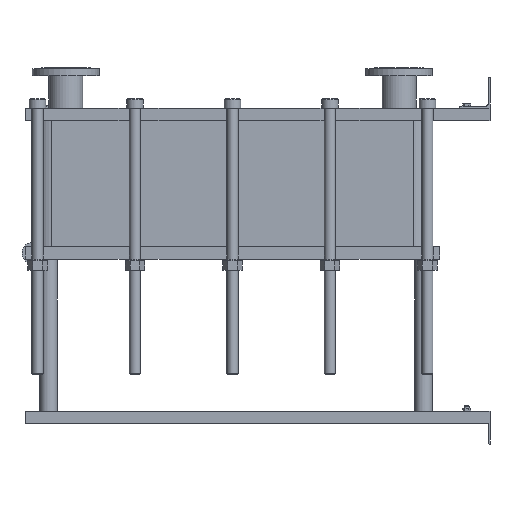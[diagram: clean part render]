
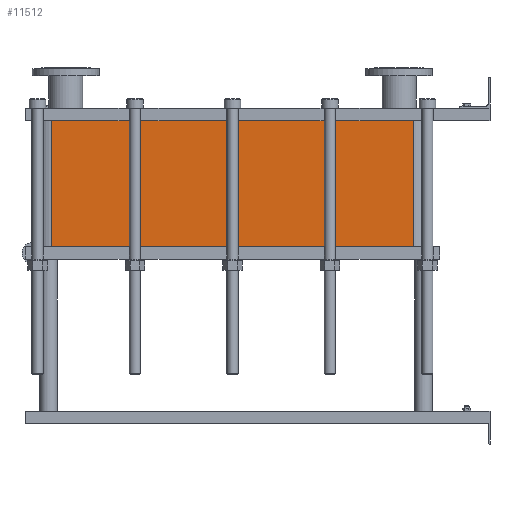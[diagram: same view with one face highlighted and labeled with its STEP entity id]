
A CAD part, left-side view. The second image highlights one B-rep face of the part: STEP entity #11512.
In plain terms, the highlighted planar face has unit normal (-1, 0, 0).
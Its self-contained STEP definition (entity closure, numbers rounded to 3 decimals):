
#1129=LINE('',#23232,#2102);
#1130=LINE('',#23236,#2103);
#1131=LINE('',#23238,#2104);
#1132=LINE('',#23239,#2105);
#2102=VECTOR('',#15887,10.);
#2103=VECTOR('',#15892,10.);
#2104=VECTOR('',#15893,10.);
#2105=VECTOR('',#15894,10.);
#3267=FACE_OUTER_BOUND('',#4093,.T.);
#4093=EDGE_LOOP('',(#10103,#10104,#10105,#10106));
#5642=VERTEX_POINT('',#23229);
#5643=VERTEX_POINT('',#23231);
#5644=VERTEX_POINT('',#23235);
#5645=VERTEX_POINT('',#23237);
#7159=EDGE_CURVE('',#5643,#5642,#1129,.T.);
#7161=EDGE_CURVE('',#5642,#5644,#1130,.T.);
#7162=EDGE_CURVE('',#5645,#5644,#1131,.T.);
#7163=EDGE_CURVE('',#5645,#5643,#1132,.T.);
#10103=ORIENTED_EDGE('',*,*,#7161,.T.);
#10104=ORIENTED_EDGE('',*,*,#7162,.F.);
#10105=ORIENTED_EDGE('',*,*,#7163,.T.);
#10106=ORIENTED_EDGE('',*,*,#7159,.T.);
#10857=PLANE('',#12751);
#11512=ADVANCED_FACE('',(#3267),#10857,.T.);
#12751=AXIS2_PLACEMENT_3D('',#23234,#15890,#15891);
#15887=DIRECTION('',(0.,0.,-1.));
#15890=DIRECTION('center_axis',(-1.,0.,0.));
#15891=DIRECTION('ref_axis',(0.,1.,0.));
#15892=DIRECTION('',(0.,-1.,0.));
#15893=DIRECTION('',(0.,0.,-1.));
#15894=DIRECTION('',(0.,1.,0.));
#23229=CARTESIAN_POINT('',(-200.,1414.,-407.1));
#23231=CARTESIAN_POINT('',(-200.,1414.,0.));
#23232=CARTESIAN_POINT('',(-200.,1414.,0.));
#23234=CARTESIAN_POINT('Origin',(-200.,248.,0.));
#23235=CARTESIAN_POINT('',(-200.,248.,-407.1));
#23236=CARTESIAN_POINT('',(-200.,539.5,-407.1));
#23237=CARTESIAN_POINT('',(-200.,248.,0.));
#23238=CARTESIAN_POINT('',(-200.,248.,0.));
#23239=CARTESIAN_POINT('',(-200.,248.,0.));
